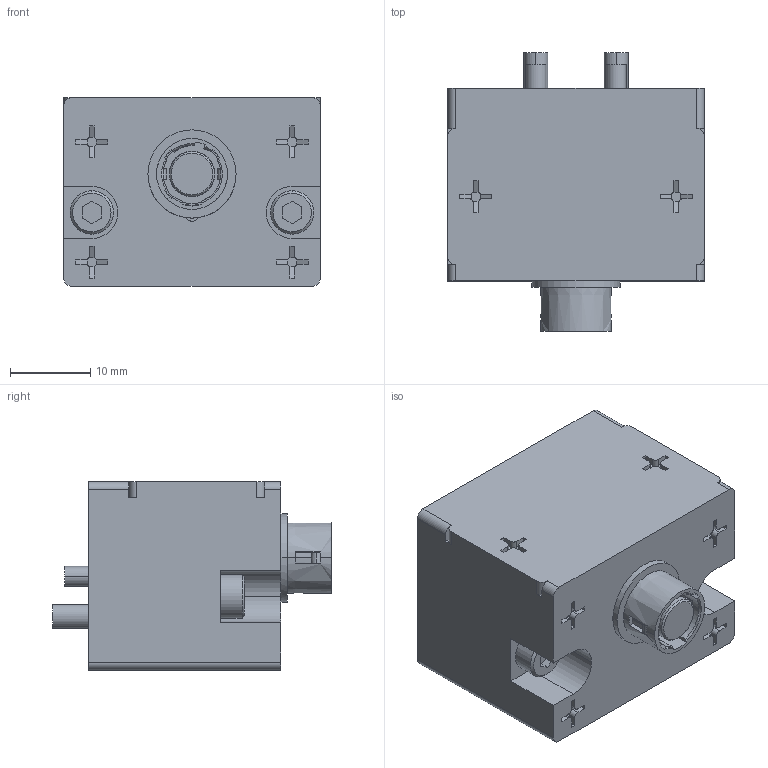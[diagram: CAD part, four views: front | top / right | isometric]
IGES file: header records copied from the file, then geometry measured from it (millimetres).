
Start section: 3D InterOp IGES (v. 2022 1.0.0), Spatial Corp. Copyright (c) 1999-2020.
Global section: file name: KHF-3RS-D14C_ver1.igs; native system: Spatial Corp.; preprocessor: 3D InterOp GENERIC/IGES 3.0; author: Noname; organization: Noname; date: 20260424.104018; units: millimetre
Bounding box: 32 x 34.8 x 23.5 mm (x, y, z)
Surface area: 6677.4 mm2 (no closed solid volume)
Topology: 0 solids, 0 shells, 584 faces, 2902 edges, 2901 vertices
Faces by surface type: extrusion 352, revolution 232
